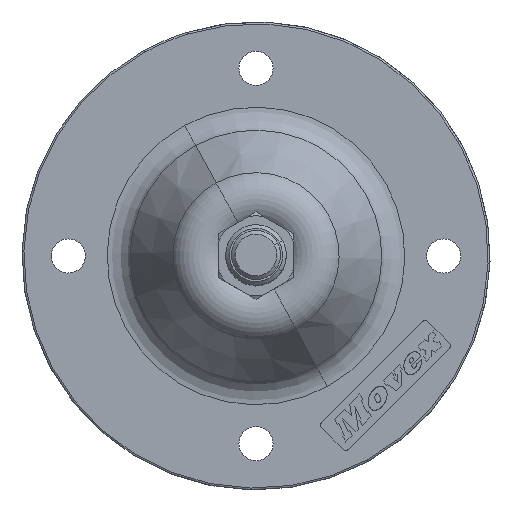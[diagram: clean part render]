
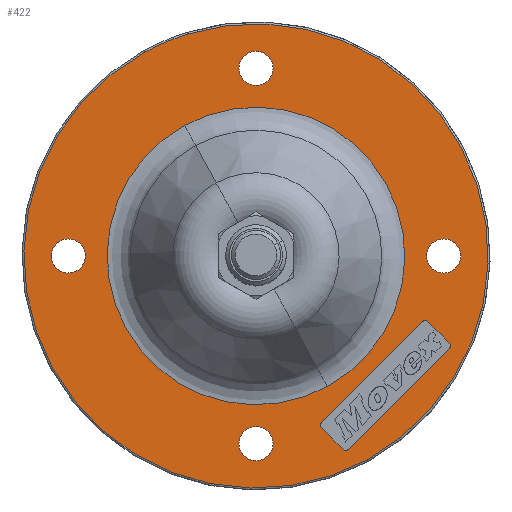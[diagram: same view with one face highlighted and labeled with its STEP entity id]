
A CAD part, top view. The second image highlights one B-rep face of the part: STEP entity #422.
In plain terms, the highlighted planar face has unit normal (0, 0, 1).
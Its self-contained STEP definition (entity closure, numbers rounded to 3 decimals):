
#93=CARTESIAN_POINT('Vertex',(-54.,0.,3.)) ;
#97=CARTESIAN_POINT('Control Point',(-54.,0.,3.)) ;
#98=CARTESIAN_POINT('Control Point',(-54.,-0.707,3.)) ;
#99=CARTESIAN_POINT('Control Point',(-53.861,-1.414,3.)) ;
#100=CARTESIAN_POINT('Control Point',(-53.583,-2.084,3.)) ;
#101=CARTESIAN_POINT('Control Point',(-52.78,-3.28,3.)) ;
#102=CARTESIAN_POINT('Control Point',(-51.584,-4.083,3.)) ;
#103=CARTESIAN_POINT('Control Point',(-50.914,-4.361,3.)) ;
#104=CARTESIAN_POINT('Control Point',(-49.5,-4.639,3.)) ;
#105=CARTESIAN_POINT('Control Point',(-48.086,-4.361,3.)) ;
#106=CARTESIAN_POINT('Control Point',(-47.416,-4.083,3.)) ;
#107=CARTESIAN_POINT('Control Point',(-46.22,-3.28,3.)) ;
#108=CARTESIAN_POINT('Control Point',(-45.417,-2.084,3.)) ;
#109=CARTESIAN_POINT('Control Point',(-45.139,-1.414,3.)) ;
#110=CARTESIAN_POINT('Control Point',(-45.,-0.707,3.)) ;
#111=CARTESIAN_POINT('Control Point',(-45.,0.,3.)) ;
#112=CARTESIAN_POINT('Vertex',(-45.,0.,3.)) ;
#237=CARTESIAN_POINT('Axis2P3D Location',(-49.5,0.,3.)) ;
#249=CARTESIAN_POINT('Axis2P3D Location',(0.,61.75,3.)) ;
#254=CARTESIAN_POINT('Axis2P3D Location',(0.,0.,3.)) ;
#258=CARTESIAN_POINT('Vertex',(29.365,-53.752,3.)) ;
#260=CARTESIAN_POINT('Vertex',(-18.03,58.536,3.)) ;
#263=CARTESIAN_POINT('Axis2P3D Location',(0.,0.,3.)) ;
#267=CARTESIAN_POINT('Vertex',(-29.365,53.752,3.)) ;
#270=CARTESIAN_POINT('Axis2P3D Location',(0.,0.,3.)) ;
#284=CARTESIAN_POINT('Axis2P3D Location',(49.5,0.,3.)) ;
#288=CARTESIAN_POINT('Vertex',(54.,0.,3.)) ;
#290=CARTESIAN_POINT('Vertex',(45.,0.,3.)) ;
#293=CARTESIAN_POINT('Axis2P3D Location',(49.5,0.,3.)) ;
#302=CARTESIAN_POINT('Axis2P3D Location',(0.,0.,3.)) ;
#306=CARTESIAN_POINT('Vertex',(-18.817,34.444,3.)) ;
#308=CARTESIAN_POINT('Vertex',(18.817,-34.444,3.)) ;
#311=CARTESIAN_POINT('Axis2P3D Location',(0.,0.,3.)) ;
#320=CARTESIAN_POINT('Axis2P3D Location',(0.,-49.5,3.)) ;
#324=CARTESIAN_POINT('Vertex',(0.,-45.,3.)) ;
#326=CARTESIAN_POINT('Vertex',(0.,-54.,3.)) ;
#329=CARTESIAN_POINT('Axis2P3D Location',(0.,-49.5,3.)) ;
#338=CARTESIAN_POINT('Axis2P3D Location',(0.,49.5,3.)) ;
#342=CARTESIAN_POINT('Vertex',(0.,54.,3.)) ;
#344=CARTESIAN_POINT('Vertex',(0.,45.,3.)) ;
#347=CARTESIAN_POINT('Axis2P3D Location',(0.,49.5,3.)) ;
#356=CARTESIAN_POINT('Axis2P3D Location',(50.373,-23.643,3.)) ;
#360=CARTESIAN_POINT('Vertex',(51.009,-24.28,3.)) ;
#362=CARTESIAN_POINT('Vertex',(51.009,-23.007,3.)) ;
#365=CARTESIAN_POINT('Line Origine',(37.645,-37.644,3.)) ;
#369=CARTESIAN_POINT('Vertex',(24.281,-51.008,3.)) ;
#372=CARTESIAN_POINT('Axis2P3D Location',(23.644,-50.372,3.)) ;
#376=CARTESIAN_POINT('Vertex',(23.008,-51.008,3.)) ;
#379=CARTESIAN_POINT('Line Origine',(20.144,-48.145,3.)) ;
#383=CARTESIAN_POINT('Vertex',(17.281,-45.281,3.)) ;
#386=CARTESIAN_POINT('Axis2P3D Location',(17.917,-44.645,3.)) ;
#390=CARTESIAN_POINT('Vertex',(17.281,-44.008,3.)) ;
#393=CARTESIAN_POINT('Line Origine',(30.645,-30.644,3.)) ;
#397=CARTESIAN_POINT('Vertex',(44.009,-17.28,3.)) ;
#400=CARTESIAN_POINT('Axis2P3D Location',(44.646,-17.916,3.)) ;
#404=CARTESIAN_POINT('Vertex',(45.282,-17.28,3.)) ;
#407=CARTESIAN_POINT('Line Origine',(48.145,-20.143,3.)) ;
#238=DIRECTION('Axis2P3D Direction',(0.,0.,1.)) ;
#250=DIRECTION('Axis2P3D Direction',(0.,0.,1.)) ;
#251=DIRECTION('Axis2P3D XDirection',(1.,0.,0.)) ;
#255=DIRECTION('Axis2P3D Direction',(0.,0.,1.)) ;
#264=DIRECTION('Axis2P3D Direction',(0.,0.,1.)) ;
#271=DIRECTION('Axis2P3D Direction',(0.,0.,1.)) ;
#285=DIRECTION('Axis2P3D Direction',(0.,0.,1.)) ;
#294=DIRECTION('Axis2P3D Direction',(0.,0.,1.)) ;
#303=DIRECTION('Axis2P3D Direction',(0.,0.,1.)) ;
#312=DIRECTION('Axis2P3D Direction',(0.,0.,1.)) ;
#321=DIRECTION('Axis2P3D Direction',(0.,0.,1.)) ;
#330=DIRECTION('Axis2P3D Direction',(0.,0.,1.)) ;
#339=DIRECTION('Axis2P3D Direction',(0.,0.,1.)) ;
#348=DIRECTION('Axis2P3D Direction',(0.,0.,1.)) ;
#357=DIRECTION('Axis2P3D Direction',(0.,0.,1.)) ;
#366=DIRECTION('Vector Direction',(0.707,0.707,0.)) ;
#373=DIRECTION('Axis2P3D Direction',(0.,0.,1.)) ;
#380=DIRECTION('Vector Direction',(-0.707,0.707,0.)) ;
#387=DIRECTION('Axis2P3D Direction',(0.,0.,1.)) ;
#394=DIRECTION('Vector Direction',(0.707,0.707,0.)) ;
#401=DIRECTION('Axis2P3D Direction',(0.,0.,1.)) ;
#408=DIRECTION('Vector Direction',(0.707,-0.707,0.)) ;
#239=AXIS2_PLACEMENT_3D('Circle Axis2P3D',#237,#238,$) ;
#252=AXIS2_PLACEMENT_3D('Plane Axis2P3D',#249,#250,#251) ;
#256=AXIS2_PLACEMENT_3D('Circle Axis2P3D',#254,#255,$) ;
#265=AXIS2_PLACEMENT_3D('Circle Axis2P3D',#263,#264,$) ;
#272=AXIS2_PLACEMENT_3D('Circle Axis2P3D',#270,#271,$) ;
#286=AXIS2_PLACEMENT_3D('Circle Axis2P3D',#284,#285,$) ;
#295=AXIS2_PLACEMENT_3D('Circle Axis2P3D',#293,#294,$) ;
#304=AXIS2_PLACEMENT_3D('Circle Axis2P3D',#302,#303,$) ;
#313=AXIS2_PLACEMENT_3D('Circle Axis2P3D',#311,#312,$) ;
#322=AXIS2_PLACEMENT_3D('Circle Axis2P3D',#320,#321,$) ;
#331=AXIS2_PLACEMENT_3D('Circle Axis2P3D',#329,#330,$) ;
#340=AXIS2_PLACEMENT_3D('Circle Axis2P3D',#338,#339,$) ;
#349=AXIS2_PLACEMENT_3D('Circle Axis2P3D',#347,#348,$) ;
#358=AXIS2_PLACEMENT_3D('Circle Axis2P3D',#356,#357,$) ;
#374=AXIS2_PLACEMENT_3D('Circle Axis2P3D',#372,#373,$) ;
#388=AXIS2_PLACEMENT_3D('Circle Axis2P3D',#386,#387,$) ;
#402=AXIS2_PLACEMENT_3D('Circle Axis2P3D',#400,#401,$) ;
#276=ORIENTED_EDGE('',*,*,#262,.T.) ;
#277=ORIENTED_EDGE('',*,*,#269,.T.) ;
#278=ORIENTED_EDGE('',*,*,#274,.T.) ;
#281=ORIENTED_EDGE('',*,*,#241,.F.) ;
#282=ORIENTED_EDGE('',*,*,#114,.F.) ;
#299=ORIENTED_EDGE('',*,*,#292,.F.) ;
#300=ORIENTED_EDGE('',*,*,#297,.F.) ;
#317=ORIENTED_EDGE('',*,*,#310,.F.) ;
#318=ORIENTED_EDGE('',*,*,#315,.F.) ;
#335=ORIENTED_EDGE('',*,*,#328,.F.) ;
#336=ORIENTED_EDGE('',*,*,#333,.F.) ;
#353=ORIENTED_EDGE('',*,*,#346,.F.) ;
#354=ORIENTED_EDGE('',*,*,#351,.F.) ;
#413=ORIENTED_EDGE('',*,*,#364,.F.) ;
#414=ORIENTED_EDGE('',*,*,#371,.F.) ;
#415=ORIENTED_EDGE('',*,*,#378,.F.) ;
#416=ORIENTED_EDGE('',*,*,#385,.F.) ;
#417=ORIENTED_EDGE('',*,*,#392,.F.) ;
#418=ORIENTED_EDGE('',*,*,#399,.F.) ;
#419=ORIENTED_EDGE('',*,*,#406,.F.) ;
#420=ORIENTED_EDGE('',*,*,#411,.F.) ;
#283=FACE_BOUND('',#280,.T.) ;
#301=FACE_BOUND('',#298,.T.) ;
#319=FACE_BOUND('',#316,.T.) ;
#337=FACE_BOUND('',#334,.T.) ;
#355=FACE_BOUND('',#352,.T.) ;
#421=FACE_BOUND('',#412,.T.) ;
#367=VECTOR('Line Direction',#366,1.) ;
#381=VECTOR('Line Direction',#380,1.) ;
#395=VECTOR('Line Direction',#394,1.) ;
#409=VECTOR('Line Direction',#408,1.) ;
#422=ADVANCED_FACE('PartBody',(#279,#283,#301,#319,#337,#355,#421),#253,.T.) ;
#96=B_SPLINE_CURVE_WITH_KNOTS('',5,(#97,#98,#99,#100,#101,#102,#103,#104,#105,#106,#107,#108,#109,#110,#111),.UNSPECIFIED.,.F.,.U.,(6,3,3,3,6),(-7.069,-3.534,0.,3.534,7.069),.UNSPECIFIED.) ;
#240=CIRCLE('generated circle',#239,4.5) ;
#257=CIRCLE('generated circle',#256,61.25) ;
#266=CIRCLE('generated circle',#265,61.25) ;
#273=CIRCLE('generated circle',#272,61.25) ;
#287=CIRCLE('generated circle',#286,4.5) ;
#296=CIRCLE('generated circle',#295,4.5) ;
#305=CIRCLE('generated circle',#304,39.249) ;
#314=CIRCLE('generated circle',#313,39.249) ;
#323=CIRCLE('generated circle',#322,4.5) ;
#332=CIRCLE('generated circle',#331,4.5) ;
#341=CIRCLE('generated circle',#340,4.5) ;
#350=CIRCLE('generated circle',#349,4.5) ;
#359=CIRCLE('generated circle',#358,0.9) ;
#375=CIRCLE('generated circle',#374,0.9) ;
#389=CIRCLE('generated circle',#388,0.9) ;
#403=CIRCLE('generated circle',#402,0.9) ;
#114=EDGE_CURVE('',#94,#113,#96,.T.) ;
#241=EDGE_CURVE('',#113,#94,#240,.T.) ;
#262=EDGE_CURVE('',#259,#261,#257,.T.) ;
#269=EDGE_CURVE('',#261,#268,#266,.T.) ;
#274=EDGE_CURVE('',#268,#259,#273,.T.) ;
#292=EDGE_CURVE('',#289,#291,#287,.T.) ;
#297=EDGE_CURVE('',#291,#289,#296,.T.) ;
#310=EDGE_CURVE('',#307,#309,#305,.T.) ;
#315=EDGE_CURVE('',#309,#307,#314,.T.) ;
#328=EDGE_CURVE('',#325,#327,#323,.T.) ;
#333=EDGE_CURVE('',#327,#325,#332,.T.) ;
#346=EDGE_CURVE('',#343,#345,#341,.T.) ;
#351=EDGE_CURVE('',#345,#343,#350,.T.) ;
#364=EDGE_CURVE('',#361,#363,#359,.T.) ;
#371=EDGE_CURVE('',#370,#361,#368,.T.) ;
#378=EDGE_CURVE('',#377,#370,#375,.T.) ;
#385=EDGE_CURVE('',#384,#377,#382,.F.) ;
#392=EDGE_CURVE('',#391,#384,#389,.T.) ;
#399=EDGE_CURVE('',#398,#391,#396,.F.) ;
#406=EDGE_CURVE('',#405,#398,#403,.T.) ;
#411=EDGE_CURVE('',#363,#405,#410,.F.) ;
#275=EDGE_LOOP('',(#276,#277,#278)) ;
#280=EDGE_LOOP('',(#281,#282)) ;
#298=EDGE_LOOP('',(#299,#300)) ;
#316=EDGE_LOOP('',(#317,#318)) ;
#334=EDGE_LOOP('',(#335,#336)) ;
#352=EDGE_LOOP('',(#353,#354)) ;
#412=EDGE_LOOP('',(#413,#414,#415,#416,#417,#418,#419,#420)) ;
#279=FACE_OUTER_BOUND('',#275,.T.) ;
#368=LINE('Line',#365,#367) ;
#382=LINE('Line',#379,#381) ;
#396=LINE('Line',#393,#395) ;
#410=LINE('Line',#407,#409) ;
#253=PLANE('',#252) ;
#94=VERTEX_POINT('',#93) ;
#113=VERTEX_POINT('',#112) ;
#259=VERTEX_POINT('',#258) ;
#261=VERTEX_POINT('',#260) ;
#268=VERTEX_POINT('',#267) ;
#289=VERTEX_POINT('',#288) ;
#291=VERTEX_POINT('',#290) ;
#307=VERTEX_POINT('',#306) ;
#309=VERTEX_POINT('',#308) ;
#325=VERTEX_POINT('',#324) ;
#327=VERTEX_POINT('',#326) ;
#343=VERTEX_POINT('',#342) ;
#345=VERTEX_POINT('',#344) ;
#361=VERTEX_POINT('',#360) ;
#363=VERTEX_POINT('',#362) ;
#370=VERTEX_POINT('',#369) ;
#377=VERTEX_POINT('',#376) ;
#384=VERTEX_POINT('',#383) ;
#391=VERTEX_POINT('',#390) ;
#398=VERTEX_POINT('',#397) ;
#405=VERTEX_POINT('',#404) ;
